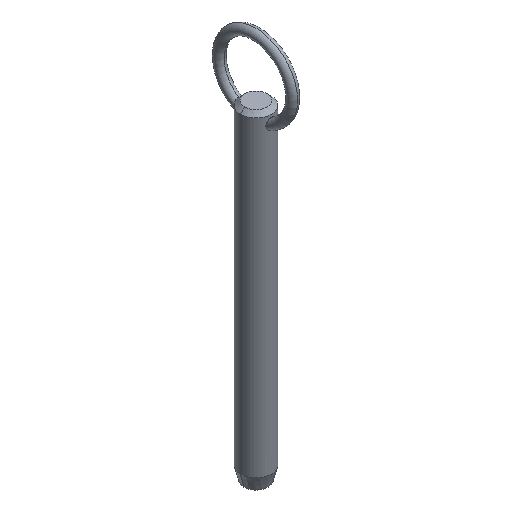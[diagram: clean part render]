
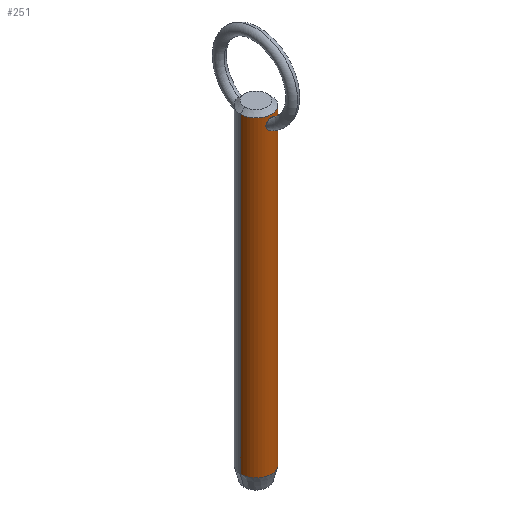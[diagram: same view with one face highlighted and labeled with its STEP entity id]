
A CAD part, isometric view. The second image highlights one B-rep face of the part: STEP entity #251.
In plain terms, the highlighted cylindrical face has radius 4.76 mm (diameter 9.52 mm), a partial arc.
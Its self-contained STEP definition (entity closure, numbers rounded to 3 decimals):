
#2 = ORIENTED_EDGE ( 'NONE', *, *, #7, .T. ) ;
#7 = EDGE_CURVE ( 'NONE', #373, #293, #494, .T. ) ;
#8 = CARTESIAN_POINT ( 'NONE',  ( 0.208, -4.757, 82.236 ) ) ;
#9 = CARTESIAN_POINT ( 'NONE',  ( 0.209, -4.756, 85.534 ) ) ;
#10 = EDGE_LOOP ( 'NONE', ( #2, #74 ) ) ;
#13 = CARTESIAN_POINT ( 'NONE',  ( 1.293, -4.582, 84.642 ) ) ;
#19 = CYLINDRICAL_SURFACE ( 'NONE', #361, 4.76 ) ;
#21 = CARTESIAN_POINT ( 'NONE',  ( -0.777, -4.7, 85.285 ) ) ;
#24 = AXIS2_PLACEMENT_3D ( 'NONE', #140, #437, #281 ) ;
#31 = CARTESIAN_POINT ( 'NONE',  ( 0., 0., 81.3 ) ) ;
#34 = CARTESIAN_POINT ( 'NONE',  ( 0., -4.76, 85.548 ) ) ;
#37 = ORIENTED_EDGE ( 'NONE', *, *, #337, .T. ) ;
#43 = VERTEX_POINT ( 'NONE', #124 ) ;
#47 = CARTESIAN_POINT ( 'NONE',  ( 0.512, -4.733, 82.308 ) ) ;
#52 = CARTESIAN_POINT ( 'NONE',  ( -0.961, -4.663, 82.557 ) ) ;
#57 = DIRECTION ( 'NONE',  ( 0., 0., -1. ) ) ;
#58 = CARTESIAN_POINT ( 'NONE',  ( 1.24, -4.596, 82.86 ) ) ;
#74 = ORIENTED_EDGE ( 'NONE', *, *, #355, .T. ) ;
#86 = CARTESIAN_POINT ( 'NONE',  ( 0.506, -4.734, 85.437 ) ) ;
#95 = CARTESIAN_POINT ( 'NONE',  ( 1.499, -4.518, 83.637 ) ) ;
#96 = VERTEX_POINT ( 'NONE', #340 ) ;
#102 = CARTESIAN_POINT ( 'NONE',  ( 4.76, 0., 81.3 ) ) ;
#124 = CARTESIAN_POINT ( 'NONE',  ( 4.76, 0., -8.7 ) ) ;
#125 = EDGE_LOOP ( 'NONE', ( #403, #404, #37, #253 ) ) ;
#127 = CARTESIAN_POINT ( 'NONE',  ( 0.997, -4.655, 85.064 ) ) ;
#128 = CARTESIAN_POINT ( 'NONE',  ( -1.508, -4.515, 83.637 ) ) ;
#129 = CARTESIAN_POINT ( 'NONE',  ( -1.483, -4.524, 83.426 ) ) ;
#136 = CARTESIAN_POINT ( 'NONE',  ( 1.45, -4.534, 83.328 ) ) ;
#140 = CARTESIAN_POINT ( 'NONE',  ( 0., 0., 86.35 ) ) ;
#145 = DIRECTION ( 'NONE',  ( -1., 0., 0. ) ) ;
#148 = CARTESIAN_POINT ( 'NONE',  ( -4.76, 0., -8.7 ) ) ;
#158 = CARTESIAN_POINT ( 'NONE',  ( -0.703, -4.709, 82.389 ) ) ;
#160 = FACE_OUTER_BOUND ( 'NONE', #125, .T. ) ;
#169 = CARTESIAN_POINT ( 'NONE',  ( 0.105, -4.76, 82.226 ) ) ;
#178 = CARTESIAN_POINT ( 'NONE',  ( -0.208, -4.757, 85.534 ) ) ;
#183 = CIRCLE ( 'NONE', #24, 4.76 ) ;
#189 = DIRECTION ( 'NONE',  ( -1., 0., 0. ) ) ;
#190 = CARTESIAN_POINT ( 'NONE',  ( -4.76, 0., 86.35 ) ) ;
#192 = CARTESIAN_POINT ( 'NONE',  ( 1.404, -4.548, 84.353 ) ) ;
#196 = DIRECTION ( 'NONE',  ( 0., 0., 1. ) ) ;
#198 = CARTESIAN_POINT ( 'NONE',  ( 0., -4.76, 82.226 ) ) ;
#200 = DIRECTION ( 'NONE',  ( 0., 0., -1. ) ) ;
#213 = CARTESIAN_POINT ( 'NONE',  ( 0., -4.76, 85.548 ) ) ;
#216 = CARTESIAN_POINT ( 'NONE',  ( 0.925, -4.67, 85.139 ) ) ;
#217 = CARTESIAN_POINT ( 'NONE',  ( -0.409, -4.743, 85.478 ) ) ;
#219 = CARTESIAN_POINT ( 'NONE',  ( -1.19, -4.611, 84.824 ) ) ;
#221 = VECTOR ( 'NONE', #277, 1000. ) ;
#231 = EDGE_CURVE ( 'NONE', #96, #435, #183, .T. ) ;
#235 = CARTESIAN_POINT ( 'NONE',  ( 1.478, -4.525, 84.052 ) ) ;
#240 = CARTESIAN_POINT ( 'NONE',  ( 1.503, -4.517, 83.74 ) ) ;
#251 = ADVANCED_FACE ( 'NONE', ( #160, #462 ), #19, .T. ) ;
#253 = ORIENTED_EDGE ( 'NONE', *, *, #459, .T. ) ;
#256 = CARTESIAN_POINT ( 'NONE',  ( 0.411, -4.743, 82.277 ) ) ;
#257 = CARTESIAN_POINT ( 'NONE',  ( 0.797, -4.697, 82.429 ) ) ;
#265 = CARTESIAN_POINT ( 'NONE',  ( 1.19, -4.611, 84.824 ) ) ;
#271 = CARTESIAN_POINT ( 'NONE',  ( -1.039, -4.646, 82.626 ) ) ;
#277 = DIRECTION ( 'NONE',  ( 0., 0., -1. ) ) ;
#281 = DIRECTION ( 'NONE',  ( 1., 0., 0. ) ) ;
#286 = LINE ( 'NONE', #102, #221 ) ;
#293 = VERTEX_POINT ( 'NONE', #514 ) ;
#299 = AXIS2_PLACEMENT_3D ( 'NONE', #438, #196, #145 ) ;
#300 = CARTESIAN_POINT ( 'NONE',  ( 0.97, -4.662, 82.55 ) ) ;
#303 = CARTESIAN_POINT ( 'NONE',  ( 0.104, -4.76, 85.548 ) ) ;
#314 = CARTESIAN_POINT ( 'NONE',  ( 1.344, -4.567, 83.039 ) ) ;
#321 = LINE ( 'NONE', #446, #402 ) ;
#328 = CARTESIAN_POINT ( 'NONE',  ( -0.21, -4.76, 82.226 ) ) ;
#336 = CARTESIAN_POINT ( 'NONE',  ( 0., -4.76, 82.226 ) ) ;
#337 = EDGE_CURVE ( 'NONE', #435, #495, #321, .T. ) ;
#339 = CARTESIAN_POINT ( 'NONE',  ( 0.409, -4.743, 85.478 ) ) ;
#340 = CARTESIAN_POINT ( 'NONE',  ( 4.76, 0., 86.35 ) ) ;
#341 = CARTESIAN_POINT ( 'NONE',  ( -1.487, -4.522, 84.053 ) ) ;
#349 = CARTESIAN_POINT ( 'NONE',  ( 1.178, -4.613, 82.776 ) ) ;
#355 = EDGE_CURVE ( 'NONE', #293, #373, #418, .T. ) ;
#361 = AXIS2_PLACEMENT_3D ( 'NONE', #31, #57, #189 ) ;
#368 = EDGE_CURVE ( 'NONE', #96, #43, #286, .T. ) ;
#373 = VERTEX_POINT ( 'NONE', #34 ) ;
#376 = CARTESIAN_POINT ( 'NONE',  ( 0.687, -4.711, 85.335 ) ) ;
#377 = CARTESIAN_POINT ( 'NONE',  ( -1.353, -4.564, 83.035 ) ) ;
#379 = CARTESIAN_POINT ( 'NONE',  ( -1.441, -4.537, 84.257 ) ) ;
#383 = CARTESIAN_POINT ( 'NONE',  ( -0.932, -4.67, 85.145 ) ) ;
#393 = CARTESIAN_POINT ( 'NONE',  ( 0., -4.76, 85.548 ) ) ;
#401 = CARTESIAN_POINT ( 'NONE',  ( -0.416, -4.746, 82.267 ) ) ;
#402 = VECTOR ( 'NONE', #200, 1000. ) ;
#403 = ORIENTED_EDGE ( 'NONE', *, *, #368, .F. ) ;
#404 = ORIENTED_EDGE ( 'NONE', *, *, #231, .T. ) ;
#406 = CIRCLE ( 'NONE', #299, 4.76 ) ;
#416 = CARTESIAN_POINT ( 'NONE',  ( 0.77, -4.698, 85.275 ) ) ;
#417 = CARTESIAN_POINT ( 'NONE',  ( -1.292, -4.582, 84.645 ) ) ;
#418 = B_SPLINE_CURVE_WITH_KNOTS ( 'NONE', 3,
 ( #198, #328, #401, #158, #449, #52, #271, #499, #377, #129, #128, #341, #379, #417, #219, #383, #21, #460, #217, #178, #497, #393 ),
 .UNSPECIFIED., .F., .F.,
 ( 4, 2, 2, 2, 2, 2, 2, 2, 2, 2, 4 ),
 ( 0.009, 0.01, 0.01, 0.011, 0.011, 0.012, 0.012, 0.013, 0.014, 0.014, 0.014 ),
 .UNSPECIFIED. ) ;
#424 = CARTESIAN_POINT ( 'NONE',  ( 1.385, -4.554, 83.132 ) ) ;
#429 = CARTESIAN_POINT ( 'NONE',  ( 1.434, -4.539, 84.254 ) ) ;
#435 = VERTEX_POINT ( 'NONE', #190 ) ;
#437 = DIRECTION ( 'NONE',  ( 0., 0., -1. ) ) ;
#438 = CARTESIAN_POINT ( 'NONE',  ( 0., 0., -8.7 ) ) ;
#446 = CARTESIAN_POINT ( 'NONE',  ( -4.76, 0., 81.3 ) ) ;
#449 = CARTESIAN_POINT ( 'NONE',  ( -0.793, -4.694, 82.439 ) ) ;
#459 = EDGE_CURVE ( 'NONE', #495, #43, #406, .T. ) ;
#460 = CARTESIAN_POINT ( 'NONE',  ( -0.504, -4.734, 85.438 ) ) ;
#462 = FACE_BOUND ( 'NONE', #10, .T. ) ;
#479 = CARTESIAN_POINT ( 'NONE',  ( 1.492, -4.52, 83.948 ) ) ;
#494 = B_SPLINE_CURVE_WITH_KNOTS ( 'NONE', 3,
 ( #213, #303, #9, #339, #86, #376, #416, #216, #127, #265, #13, #192, #429, #235, #479, #240, #95, #501, #136, #424, #314, #58, #349, #300, #257, #47, #256, #8, #169, #336 ),
 .UNSPECIFIED., .F., .F.,
 ( 4, 2, 2, 2, 2, 2, 2, 2, 2, 2, 2, 2, 2, 2, 4 ),
 ( 0.004, 0.005, 0.005, 0.005, 0.006, 0.006, 0.007, 0.007, 0.007, 0.007, 0.008, 0.008, 0.009, 0.009, 0.009 ),
 .UNSPECIFIED. ) ;
#495 = VERTEX_POINT ( 'NONE', #148 ) ;
#497 = CARTESIAN_POINT ( 'NONE',  ( -0.103, -4.76, 85.548 ) ) ;
#499 = CARTESIAN_POINT ( 'NONE',  ( -1.247, -4.596, 82.852 ) ) ;
#501 = CARTESIAN_POINT ( 'NONE',  ( 1.473, -4.526, 83.431 ) ) ;
#514 = CARTESIAN_POINT ( 'NONE',  ( 0., -4.76, 82.226 ) ) ;
